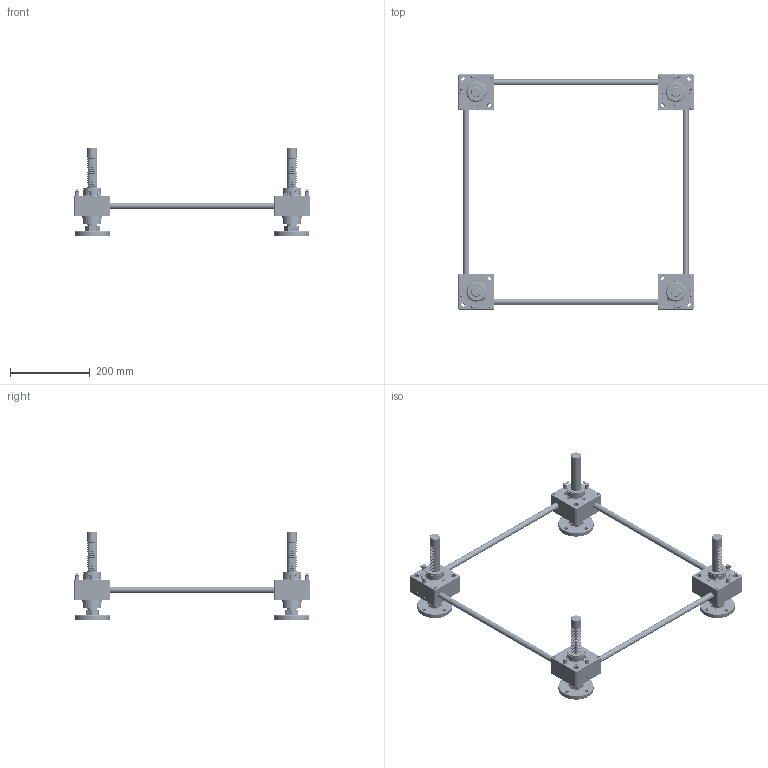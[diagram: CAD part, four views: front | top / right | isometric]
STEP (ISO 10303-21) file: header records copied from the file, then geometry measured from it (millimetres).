
FILE_DESCRIPTION(('STEP AP203'),'1');
FILE_NAME('SP500FU-500x500-100ST.stp','2022-06-15T01:42:22',(' '),(' '),'Spatial InterOp 3D',' ',' ');
FILE_SCHEMA(('CONFIG_CONTROL_DESIGN'));
Length unit declared in the file: millimetre
Products named in the file (87): SP500FU-500x500-100ST; ASSEM1; Flange.1-Part; Flange.1; Joint.1; Nut.1; Flange.2-Part; Flange.2; Joint.2; Nut.2; Flange.3-Part; Flange.3; Joint.3; Nut.3; Body.1-Part; Bolt; Nipple; Gear Box.1(Upper); Gear Box.1(Lower); LowerGearBox.1; RJ05-4SCJ-610X600-100ST_CAP; LABEL-B.1; ___; 파트18; __ SP500; Flange.4-Part; Flange.4; Joint.4; Nut.4; Body.2-Part; Gear Box.2(Upper); Gear Box.2(Lower); Symmetry of LowerGearBox.1.1; Body.3-Part; Gear Box.3(Upper); Gear Box.3(Lower); Symmetry of Symmetry of LowerGearBox.1.2.1; Body.4-Part; Gear Box.4(Upper); Gear Box.4(Lower)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
Assembly tree (88 placements, depth 6):
  SP500FU-500x500-100ST
    ASSEM1
    (unnamed)
    (unnamed)
    (unnamed)
    Flange.1-Part
      Flange.1
      Joint.1
      Nut.1
    Flange.2-Part
      Flange.2
      Joint.2
      Nut.2
    Flange.3-Part
      Flange.3
      Joint.3
      Nut.3
    Body.1-Part
      Bolt
      Bolt
      Bolt
      Bolt
      Bolt
      Nipple
      Nipple
      Gear Box.1(Upper)
      Gear Box.1(Lower)
        LowerGearBox.1
      __ SP500
        ___
          RJ05-4SCJ-610X600-100ST_CAP
            LABEL-B.1
          파트18
    Flange.4-Part
      Flange.4
      Joint.4
      Nut.4
    Body.2-Part
      Bolt
      Bolt
      Bolt
      Bolt
      Bolt
      Nipple
      Nipple
      Gear Box.2(Upper)
      Gear Box.2(Lower)
        Symmetry of LowerGearBox.1.1
      __ SP500
        ___
          RJ05-4SCJ-610X600-100ST_CAP
            LABEL-B.1
          파트18
    Body.3-Part
      Bolt
      Bolt
      Bolt
      Bolt
      Bolt
      Nipple
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Bounding box: 590.44 x 590.44 x 220 mm (x, y, z)
Volume: 2076839.3 mm3; surface area: 667066.6 mm2
Topology: 84 solids, 84 shells, 8912 faces, 25126 edges, 16638 vertices
Faces by surface type: plane 7856, cylinder 568, revolution 168, extrusion 152, cone 144, bspline 20, sphere 4
Full cylindrical faces by diameter (mm): 4.8 x8, 6 x48, 7 x20, 9 x16, 9.5 x16, 9.886 x8, 10.5 x40, 13.5 x8, 15 x4, 23 x4, 25 x12, 26 x8, 27 x4, 28 x8, 28.3 x8, 29.5 x8, 37 x4, 38 x4, 42.5 x4, 44 x4, 45 x16, 50 x4, 88 x4
Entity records: 288266 total; most frequent: CARTESIAN_POINT 57367, ORIENTED_EDGE 48320, DIRECTION 43046, EDGE_CURVE 24160, VECTOR 21680, LINE 21528, VERTEX_POINT 16268, AXIS2_PLACEMENT_3D 10599
